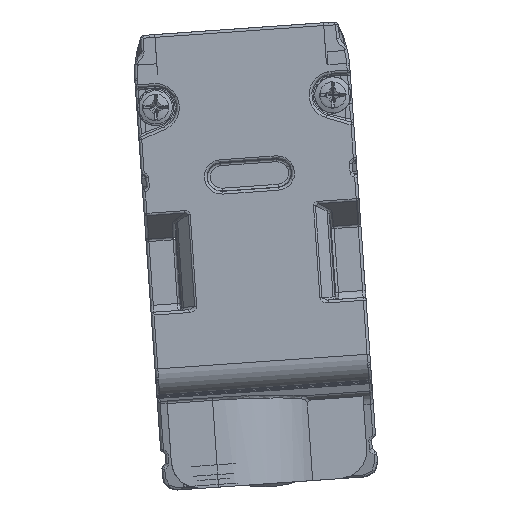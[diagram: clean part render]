
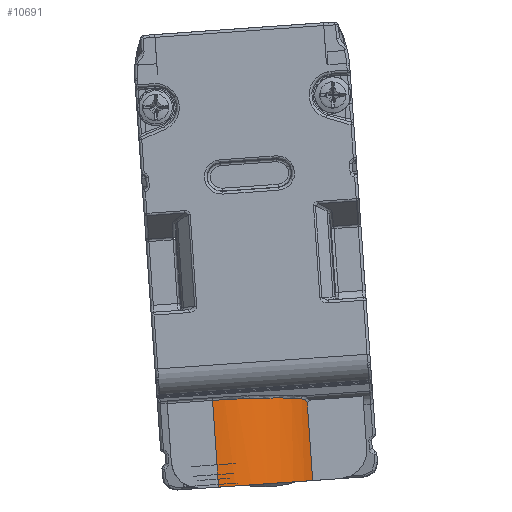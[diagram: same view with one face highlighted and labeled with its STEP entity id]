
A CAD part, front view. The second image highlights one B-rep face of the part: STEP entity #10691.
In plain terms, the highlighted cylindrical face has radius 7.5 mm (diameter 15 mm), a partial arc.
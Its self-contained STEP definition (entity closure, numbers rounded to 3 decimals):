
#556=LINE('',#53844,#1724);
#557=LINE('',#53869,#1725);
#1724=VECTOR('',#31681,1.);
#1725=VECTOR('',#31682,1.);
#3704=FACE_OUTER_BOUND('',#12344,.T.);
#5820=B_SPLINE_CURVE_WITH_KNOTS('',3,(#53847,#53848,#53849,#53850,#53851,
#53852,#53853,#53854,#53855,#53856),.UNSPECIFIED.,.F.,.F.,(4,2,2,2,4),(0.,
0.25,0.375,0.5,1.),.UNSPECIFIED.);
#5821=B_SPLINE_CURVE_WITH_KNOTS('',3,(#53858,#53859,#53860,#53861,#53862,
#53863,#53864,#53865,#53866,#53867),.UNSPECIFIED.,.F.,.F.,(4,2,2,2,4),(0.,
0.25,0.5,0.75,1.),.UNSPECIFIED.);
#10691=ADVANCED_FACE('',(#3704),#11328,.T.);
#11328=CYLINDRICAL_SURFACE('',#28350,7.5);
#12344=EDGE_LOOP('',(#15978,#15979,#15980,#15981,#15982));
#15978=ORIENTED_EDGE('',*,*,#24920,.T.);
#15979=ORIENTED_EDGE('',*,*,#24921,.T.);
#15980=ORIENTED_EDGE('',*,*,#24922,.T.);
#15981=ORIENTED_EDGE('',*,*,#24923,.T.);
#15982=ORIENTED_EDGE('',*,*,#24924,.F.);
#21040=VERTEX_POINT('',#53845);
#21041=VERTEX_POINT('',#53846);
#21042=VERTEX_POINT('',#53857);
#21043=VERTEX_POINT('',#53868);
#21044=VERTEX_POINT('',#53870);
#24920=EDGE_CURVE('',#21040,#21041,#556,.T.);
#24921=EDGE_CURVE('',#21041,#21042,#5820,.T.);
#24922=EDGE_CURVE('',#21042,#21043,#5821,.T.);
#24923=EDGE_CURVE('',#21043,#21044,#557,.T.);
#24924=EDGE_CURVE('',#21040,#21044,#26788,.T.);
#26788=CIRCLE('',#28349,7.5);
#28349=AXIS2_PLACEMENT_3D('',#53871,#31683,#31684);
#28350=AXIS2_PLACEMENT_3D('',#53872,#31685,#31686);
#31681=DIRECTION('',(-0.07,0.,0.998));
#31682=DIRECTION('',(0.07,0.,-0.998));
#31683=DIRECTION('',(0.07,0.,-0.998));
#31684=DIRECTION('',(0.998,0.,0.07));
#31685=DIRECTION('',(0.07,0.,-0.998));
#31686=DIRECTION('',(0.,1.,0.));
#53844=CARTESIAN_POINT('',(-40.701,-800.597,14.888));
#53845=CARTESIAN_POINT('',(-40.701,-800.597,14.888));
#53846=CARTESIAN_POINT('',(-41.088,-800.597,20.435));
#53847=CARTESIAN_POINT('',(-41.088,-800.597,20.435));
#53848=CARTESIAN_POINT('',(-41.114,-800.643,20.483));
#53849=CARTESIAN_POINT('',(-41.142,-800.693,20.526));
#53850=CARTESIAN_POINT('',(-41.187,-800.773,20.581));
#53851=CARTESIAN_POINT('',(-41.203,-800.8,20.599));
#53852=CARTESIAN_POINT('',(-41.235,-800.857,20.631));
#53853=CARTESIAN_POINT('',(-41.253,-800.887,20.646));
#53854=CARTESIAN_POINT('',(-41.336,-801.031,20.709));
#53855=CARTESIAN_POINT('',(-41.408,-801.152,20.738));
#53856=CARTESIAN_POINT('',(-41.487,-801.278,20.743));
#53857=CARTESIAN_POINT('',(-41.487,-801.278,20.743));
#53858=CARTESIAN_POINT('',(-41.487,-801.278,20.743));
#53859=CARTESIAN_POINT('',(-41.856,-801.868,20.771));
#53860=CARTESIAN_POINT('',(-42.299,-802.393,20.786));
#53861=CARTESIAN_POINT('',(-43.281,-803.292,20.797));
#53862=CARTESIAN_POINT('',(-43.82,-803.665,20.793));
#53863=CARTESIAN_POINT('',(-44.944,-804.255,20.767));
#53864=CARTESIAN_POINT('',(-45.53,-804.47,20.746));
#53865=CARTESIAN_POINT('',(-46.703,-804.752,20.691));
#53866=CARTESIAN_POINT('',(-47.291,-804.818,20.656));
#53867=CARTESIAN_POINT('',(-47.863,-804.818,20.616));
#53868=CARTESIAN_POINT('',(-47.863,-804.818,20.616));
#53869=CARTESIAN_POINT('',(-47.667,-804.818,17.815));
#53870=CARTESIAN_POINT('',(-47.43,-804.818,14.418));
#53871=CARTESIAN_POINT('',(-47.43,-797.318,14.418));
#53872=CARTESIAN_POINT('',(-52.434,-797.318,85.982));
